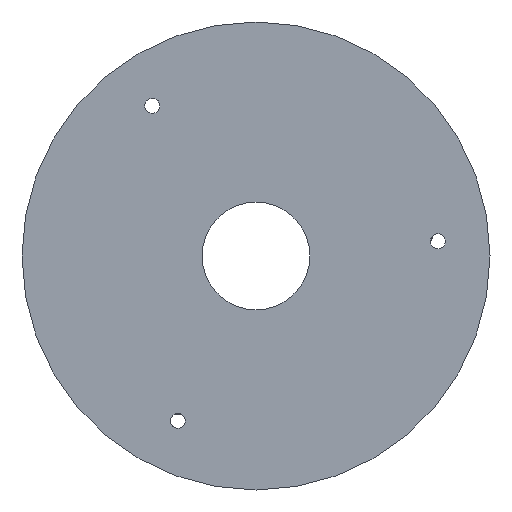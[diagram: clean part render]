
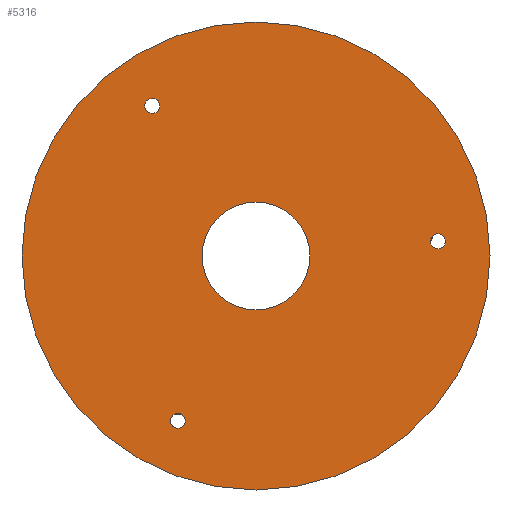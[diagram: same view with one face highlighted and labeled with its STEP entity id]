
A CAD part, front view. The second image highlights one B-rep face of the part: STEP entity #5316.
In plain terms, the highlighted planar face has unit normal (0, -1, 0).
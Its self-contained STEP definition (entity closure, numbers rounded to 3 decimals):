
#286 = CIRCLE ( 'NONE', #287, 0.8 ) ;
#287 = AXIS2_PLACEMENT_3D ( 'NONE', #7156, #6956, #7142 ) ;
#380 = CIRCLE ( 'NONE', #390, 0.8 ) ;
#382 = CIRCLE ( 'NONE', #388, 0.8 ) ;
#384 = CIRCLE ( 'NONE', #386, 5.75 ) ;
#385 = CIRCLE ( 'NONE', #392, 0.8 ) ;
#386 = AXIS2_PLACEMENT_3D ( 'NONE', #1412, #1322, #1351 ) ;
#388 = AXIS2_PLACEMENT_3D ( 'NONE', #1440, #1275, #1428 ) ;
#390 = AXIS2_PLACEMENT_3D ( 'NONE', #1384, #1409, #1379 ) ;
#392 = AXIS2_PLACEMENT_3D ( 'NONE', #1055, #1065, #1037 ) ;
#486 = CIRCLE ( 'NONE', #495, 0.8 ) ;
#489 = CIRCLE ( 'NONE', #555, 0.8 ) ;
#495 = AXIS2_PLACEMENT_3D ( 'NONE', #2070, #2064, #1987 ) ;
#533 = AXIS2_PLACEMENT_3D ( 'NONE', #1989, #2074, #2066 ) ;
#555 = AXIS2_PLACEMENT_3D ( 'NONE', #2037, #1856, #1770 ) ;
#557 = CIRCLE ( 'NONE', #533, 5.75 ) ;
#755 = EDGE_LOOP ( 'NONE', ( #6049, #6054 ) ) ;
#778 = EDGE_LOOP ( 'NONE', ( #6053, #6057 ) ) ;
#966 = DIRECTION ( 'NONE',  ( 0., 0., 1. ) ) ;
#1016 = DIRECTION ( 'NONE',  ( 0., 1., 0. ) ) ;
#1037 = DIRECTION ( 'NONE',  ( 0., 0., -1. ) ) ;
#1046 = DIRECTION ( 'NONE',  ( 0., 0., 1. ) ) ;
#1055 = CARTESIAN_POINT ( 'NONE',  ( -8.36, 0., -17.617 ) ) ;
#1065 = DIRECTION ( 'NONE',  ( 0., -1., 0. ) ) ;
#1068 = CARTESIAN_POINT ( 'NONE',  ( 0., 0., 0. ) ) ;
#1161 = DIRECTION ( 'NONE',  ( 0., 1., 0. ) ) ;
#1181 = CARTESIAN_POINT ( 'NONE',  ( 0., 0., 0. ) ) ;
#1275 = DIRECTION ( 'NONE',  ( 0., -1., 0. ) ) ;
#1322 = DIRECTION ( 'NONE',  ( 0., -1., 0. ) ) ;
#1351 = DIRECTION ( 'NONE',  ( 0., 0., -1. ) ) ;
#1379 = DIRECTION ( 'NONE',  ( 0., 0., -1. ) ) ;
#1384 = CARTESIAN_POINT ( 'NONE',  ( 19.437, 0., 1.569 ) ) ;
#1409 = DIRECTION ( 'NONE',  ( 0., -1., 0. ) ) ;
#1412 = CARTESIAN_POINT ( 'NONE',  ( 0., 0., 0. ) ) ;
#1428 = DIRECTION ( 'NONE',  ( 0., 0., -1. ) ) ;
#1440 = CARTESIAN_POINT ( 'NONE',  ( -11.077, 0., 16.048 ) ) ;
#1770 = DIRECTION ( 'NONE',  ( 0., 0., -1. ) ) ;
#1856 = DIRECTION ( 'NONE',  ( 0., -1., 0. ) ) ;
#1987 = DIRECTION ( 'NONE',  ( 0., 0., -1. ) ) ;
#1989 = CARTESIAN_POINT ( 'NONE',  ( 0., 0., 0. ) ) ;
#2037 = CARTESIAN_POINT ( 'NONE',  ( -11.077, 0., 16.048 ) ) ;
#2064 = DIRECTION ( 'NONE',  ( 0., -1., 0. ) ) ;
#2066 = DIRECTION ( 'NONE',  ( 0., 0., -1. ) ) ;
#2070 = CARTESIAN_POINT ( 'NONE',  ( 19.437, 0., 1.569 ) ) ;
#2074 = DIRECTION ( 'NONE',  ( 0., -1., 0. ) ) ;
#2388 = PLANE ( 'NONE',  #4783 ) ;
#2389 = CARTESIAN_POINT ( 'NONE',  ( 0., 0., 0. ) ) ;
#2390 = DIRECTION ( 'NONE',  ( 0., 1., 0. ) ) ;
#2498 = DIRECTION ( 'NONE',  ( 0., 0., 1. ) ) ;
#2982 = EDGE_CURVE ( 'NONE', #6182, #6230, #557, .T. ) ;
#2986 = EDGE_CURVE ( 'NONE', #6232, #6189, #489, .T. ) ;
#2990 = EDGE_CURVE ( 'NONE', #6180, #6114, #486, .T. ) ;
#4783 = AXIS2_PLACEMENT_3D ( 'NONE', #2389, #2390, #2498 ) ;
#5090 = FACE_BOUND ( 'NONE', #5453, .T. ) ;
#5091 = FACE_BOUND ( 'NONE', #755, .T. ) ;
#5092 = FACE_BOUND ( 'NONE', #6546, .T. ) ;
#5093 = FACE_BOUND ( 'NONE', #778, .T. ) ;
#5094 = FACE_OUTER_BOUND ( 'NONE', #5438, .T. ) ;
#5316 = ADVANCED_FACE ( 'NONE', ( #5090, #5091, #5092, #5093, #5094 ), #2388, .F. ) ;
#5438 = EDGE_LOOP ( 'NONE', ( #6055, #6058 ) ) ;
#5453 = EDGE_LOOP ( 'NONE', ( #6050, #6052 ) ) ;
#6049 = ORIENTED_EDGE ( 'NONE', *, *, #7693, .F. ) ;
#6050 = ORIENTED_EDGE ( 'NONE', *, *, #7692, .F. ) ;
#6051 = ORIENTED_EDGE ( 'NONE', *, *, #7694, .F. ) ;
#6052 = ORIENTED_EDGE ( 'NONE', *, *, #2982, .F. ) ;
#6053 = ORIENTED_EDGE ( 'NONE', *, *, #7695, .F. ) ;
#6054 = ORIENTED_EDGE ( 'NONE', *, *, #2986, .F. ) ;
#6055 = ORIENTED_EDGE ( 'NONE', *, *, #7755, .F. ) ;
#6056 = ORIENTED_EDGE ( 'NONE', *, *, #2990, .F. ) ;
#6057 = ORIENTED_EDGE ( 'NONE', *, *, #6604, .F. ) ;
#6058 = ORIENTED_EDGE ( 'NONE', *, *, #7752, .F. ) ;
#6101 = VERTEX_POINT ( 'NONE', #7299 ) ;
#6114 = VERTEX_POINT ( 'NONE', #7306 ) ;
#6150 = VERTEX_POINT ( 'NONE', #6931 ) ;
#6180 = VERTEX_POINT ( 'NONE', #7201 ) ;
#6182 = VERTEX_POINT ( 'NONE', #6978 ) ;
#6189 = VERTEX_POINT ( 'NONE', #6942 ) ;
#6230 = VERTEX_POINT ( 'NONE', #6832 ) ;
#6232 = VERTEX_POINT ( 'NONE', #6828 ) ;
#6546 = EDGE_LOOP ( 'NONE', ( #6051, #6056 ) ) ;
#6604 = EDGE_CURVE ( 'NONE', #6150, #6101, #286, .T. ) ;
#6732 = CIRCLE ( 'NONE', #6744, 25. ) ;
#6738 = CIRCLE ( 'NONE', #6739, 25. ) ;
#6739 = AXIS2_PLACEMENT_3D ( 'NONE', #1068, #1161, #966 ) ;
#6744 = AXIS2_PLACEMENT_3D ( 'NONE', #1181, #1016, #1046 ) ;
#6828 = CARTESIAN_POINT ( 'NONE',  ( -11.077, 0., 16.848 ) ) ;
#6832 = CARTESIAN_POINT ( 'NONE',  ( 0., 0., -5.75 ) ) ;
#6931 = CARTESIAN_POINT ( 'NONE',  ( -8.36, 0., -16.817 ) ) ;
#6942 = CARTESIAN_POINT ( 'NONE',  ( -11.077, 0., 15.248 ) ) ;
#6956 = DIRECTION ( 'NONE',  ( 0., -1., 0. ) ) ;
#6978 = CARTESIAN_POINT ( 'NONE',  ( 0., 0., 5.75 ) ) ;
#7109 = CARTESIAN_POINT ( 'NONE',  ( 0., 0., 25. ) ) ;
#7110 = CARTESIAN_POINT ( 'NONE',  ( 0., 0., -25. ) ) ;
#7142 = DIRECTION ( 'NONE',  ( 0., 0., -1. ) ) ;
#7156 = CARTESIAN_POINT ( 'NONE',  ( -8.36, 0., -17.617 ) ) ;
#7201 = CARTESIAN_POINT ( 'NONE',  ( 19.437, 0., 2.369 ) ) ;
#7299 = CARTESIAN_POINT ( 'NONE',  ( -8.36, 0., -18.417 ) ) ;
#7306 = CARTESIAN_POINT ( 'NONE',  ( 19.437, 0., 0.769 ) ) ;
#7505 = VERTEX_POINT ( 'NONE', #7109 ) ;
#7506 = VERTEX_POINT ( 'NONE', #7110 ) ;
#7692 = EDGE_CURVE ( 'NONE', #6230, #6182, #384, .T. ) ;
#7693 = EDGE_CURVE ( 'NONE', #6189, #6232, #382, .T. ) ;
#7694 = EDGE_CURVE ( 'NONE', #6114, #6180, #380, .T. ) ;
#7695 = EDGE_CURVE ( 'NONE', #6101, #6150, #385, .T. ) ;
#7752 = EDGE_CURVE ( 'NONE', #7505, #7506, #6738, .T. ) ;
#7755 = EDGE_CURVE ( 'NONE', #7506, #7505, #6732, .T. ) ;
